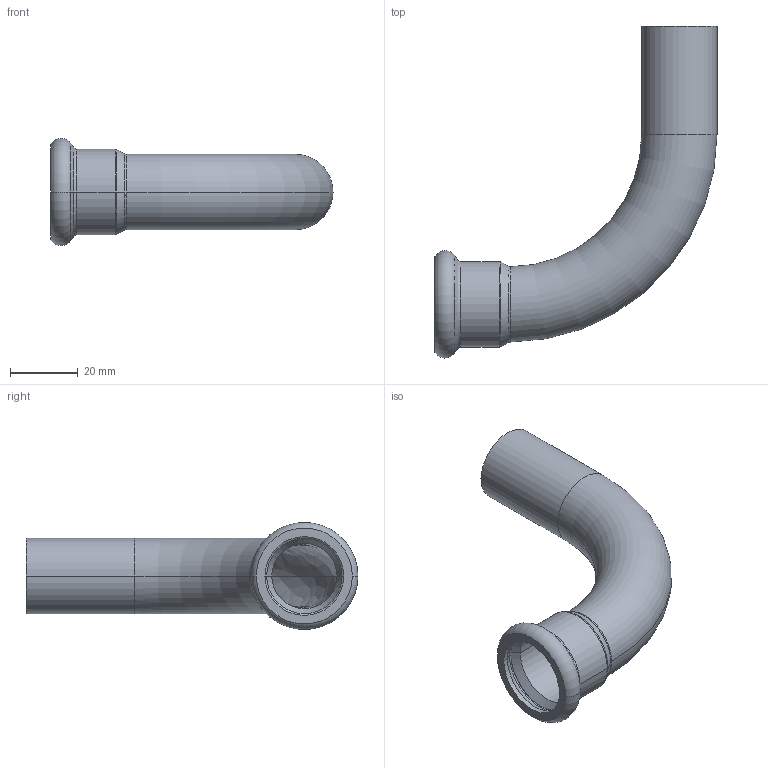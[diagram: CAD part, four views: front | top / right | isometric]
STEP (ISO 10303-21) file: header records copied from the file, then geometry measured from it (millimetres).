
FILE_DESCRIPTION (( 'STEP AP214' ), '1' );
FILE_NAME ('E22000B.STEP', '2025-08-17T07:53:28', ( '' ), ( '' ), 'SwSTEP 2.0', 'SolidWorks 2020', '' );
FILE_SCHEMA (( 'AUTOMOTIVE_DESIGN' ));
Length unit declared in the file: millimetre
Products named in the file (1): E22000B
Bounding box: 83.1 x 97.8 x 31.6 mm (x, y, z)
Volume: 14038.8 mm3; surface area: 19141.8 mm2
Topology: 2 solids, 2 shells, 39 faces, 84 edges, 48 vertices
Faces by surface type: torus 14, cylinder 10, cone 8, bspline 4, plane 3
Entity records: 2296 total; most frequent: CARTESIAN_POINT 1059, DIRECTION 196, ORIENTED_EDGE 168, AXIS2_PLACEMENT_3D 89, EDGE_CURVE 84, CIRCLE 53, VERTEX_POINT 48, EDGE_LOOP 42
